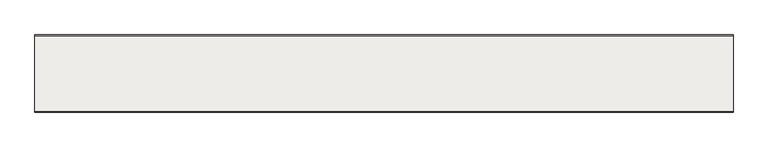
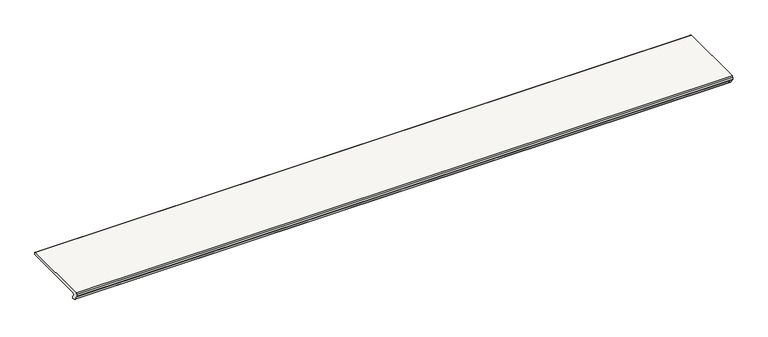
"""IFC4 building model written with IfcOpenShell, lengths in millimetres: slab geometry, ROSA GRES_J62 : Pieza J62_Tresor_Java_Anti-Slip."""

from ifc_helpers import new_model, si_unit, frame, origin, place, context, project, spatial, polyline, circle_curve, source, transform, mapped, element, save
from ifc_brep_helpers import plane_surface, cylinder_surface, revolved_surface, advanced_brep


def slab_f0ecebe4(model_context):
    return source(origin(), model_context, "Body", "AdvancedBrep", [
        advanced_brep(
        [(2870.0, 317.0, 2.5), (2870.0, 317.0, 10.0774941), (2870.0, 314.2818333, 12.7946269), (2870.0, 3.9876034, 12.7946269), (2870.0, 0.0, 8.2984975), (2870.0, 0.0, -0.2793766), (2870.0, 0.7963935, -2.84429), (2870.0, 14.760096, -23.1626329), (2870.0, 17.666394, -25.1262743), (2870.0, 18.5721049, -25.1262743), (2870.0, 19.473321, -26.1221068), (2870.0, 20.3835268, -27.1188383), (2870.0, 26.7240304, -27.1188383), (2870.0, 29.4411632, -24.4017055), (2870.0, 29.4411632, -18.2354274), (2870.0, 24.5931401, -10.7276172), (2870.0, 29.6363327, 0.0), (2870.0, 314.5, 0.0), (0.0, 317.0, 2.5), (0.0, 314.5, 0.0), (0.0, 29.6363327, 0.0), (0.0, 24.5931401, -10.7276172), (0.0, 29.4411632, -18.2354274), (0.0, 29.4411632, -24.4017055), (0.0, 26.7240304, -27.1188383), (0.0, 20.3835268, -27.1188383), (0.0, 19.4823107, -26.1230058), (0.0, 18.5721049, -25.1262743), (0.0, 17.666394, -25.1262743), (0.0, 14.760096, -23.1626329), (0.0, 0.7963935, -2.84429), (0.0, 0.0, -0.2793766), (0.0, 0.0, 8.2984975), (0.0, 3.9876034, 12.7946269), (0.0, 314.2818333, 12.7946269), (0.0, 316.9989661, 10.0774941)],
        [
            (0, 1),
            (1, 2, circle_curve(frame((2870.0, 314.2818333, 10.0774941), z_axis=(1.0, 0.0, 0.0), x_axis=(0.0, 0.0, 1.0)), 2.7171328)),
            (2, 3),
            (3, 4, circle_curve(frame((2870.0, 4.5285547, 8.2984975), z_axis=(1.0, 0.0, 0.0), x_axis=(0.0, -0.9928398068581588, -0.11945341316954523)), 4.5285547)),
            (4, 5),
            (5, 6, circle_curve(frame((2870.0, 4.5285547, -0.2793766), z_axis=(1.0, 0.0, 0.0), x_axis=(0.0, 0.0, -1.0)), 4.5285547)),
            (6, 7),
            (7, 8, circle_curve(frame((2870.0, 18.9818017, -20.0468365), z_axis=(1.0, 0.0, 0.0), x_axis=(0.0, 0.5938246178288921, -0.804594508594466)), 5.2469978)),
            (8, 9),
            (9, 10, circle_curve(frame((2870.0, 18.5721049, -26.0319852), z_axis=(-1.0, 0.0, 0.0), x_axis=(0.0, 1.0, 0.0)), 0.9057109)),
            (10, 11, circle_curve(frame((2870.0, 20.3835268, -26.2131274), z_axis=(1.0, 0.0, 0.0), x_axis=(0.0, -0.0995037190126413, -0.9950371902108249)), 0.9057109)),
            (11, 12),
            (12, 13, circle_curve(frame((2870.0, 26.7240304, -24.4017055), z_axis=(1.0, 0.0, 0.0), x_axis=(0.0, 1.0, 0.0)), 2.7171328)),
            (13, 14),
            (14, 15),
            (15, 16, circle_curve(frame((2870.0, 30.1604402, -6.7956336), z_axis=(-1.0, 0.0, 0.0), x_axis=(0.0, -0.5768912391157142, 0.8168209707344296)), 6.8158144)),
            (16, 17),
            (17, 0, circle_curve(frame((2870.0, 314.5, 2.5), z_axis=(1.0, 0.0, 0.0), x_axis=(0.0, 1.0, 0.0)), 2.5)),
            (18, 19, circle_curve(frame((0.0, 314.5, 2.5), z_axis=(-1.0, 0.0, 0.0), x_axis=(0.0, 1.0, 0.0)), 2.5)),
            (19, 20),
            (20, 21, circle_curve(frame((0.0, 30.1604402, -6.7956336), z_axis=(1.0, 0.0, 0.0), x_axis=(0.0, -0.5768912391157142, 0.8168209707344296)), 6.8158144)),
            (21, 22),
            (22, 23),
            (23, 24, circle_curve(frame((0.0, 26.7240304, -24.4017055), z_axis=(-1.0, 0.0, 0.0), x_axis=(0.0, 1.0, 0.0)), 2.7171328)),
            (24, 25),
            (25, 26, circle_curve(frame((0.0, 20.3835268, -26.2131274), z_axis=(-1.0, 0.0, 0.0), x_axis=(0.0, -0.0995037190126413, -0.9950371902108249)), 0.9057109)),
            (26, 27, circle_curve(frame((0.0, 18.5721049, -26.0319852), z_axis=(1.0, 0.0, 0.0), x_axis=(0.0, 1.0, 0.0)), 0.9057109)),
            (27, 28),
            (28, 29, circle_curve(frame((0.0, 18.9818017, -20.0468365), z_axis=(-1.0, 0.0, 0.0), x_axis=(0.0, 0.5938246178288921, -0.804594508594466)), 5.2469978)),
            (29, 30),
            (30, 31, circle_curve(frame((0.0, 4.5285547, -0.2793766), z_axis=(-1.0, 0.0, 0.0), x_axis=(0.0, 0.0, -1.0)), 4.5285547)),
            (31, 32),
            (32, 33, circle_curve(frame((0.0, 4.5285547, 8.2984975), z_axis=(-1.0, 0.0, 0.0), x_axis=(0.0, -0.9928398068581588, -0.11945341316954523)), 4.5285547)),
            (33, 34),
            (34, 35, circle_curve(frame((0.0, 314.2818333, 10.0774941), z_axis=(-1.0, 0.0, 0.0), x_axis=(0.0, 0.0, 1.0)), 2.7171328)),
            (35, 18),
            (16, 20),
            (19, 17),
            (18, 0),
            (35, 1),
            (34, 2),
            (33, 3),
            (32, 4),
            (31, 5),
            (30, 6),
            (29, 7),
            (28, 8),
            (27, 9),
            (26, 10),
            (25, 11),
            (24, 12),
            (23, 13),
            (22, 14),
            (21, 15),
        ],
        [
            plane_surface(frame((2870.0, 317.0, 10.0774941), z_axis=(1.0, 0.0, 0.0), x_axis=(0.0, 0.0, 1.0))),
            plane_surface(frame((0.0, 317.0, 10.0774941), z_axis=(-1.0, 0.0, 0.0), x_axis=(0.0, 0.0, -1.0))),
            plane_surface(frame((2870.0, 172.0681664, 0.0), z_axis=(0.0, 0.0, -1.0), x_axis=(0.0, 1.0, 0.0))),
            cylinder_surface(frame((2870.0, 314.5, 2.5), z_axis=(-1.0, 0.0, 0.0), x_axis=(0.0, 1.0, 0.0)), 2.5),
            plane_surface(frame((2870.0, 317.0, 6.288747), z_axis=(0.0, 1.0, 0.0), x_axis=(0.0, 0.0, 1.0))),
            cylinder_surface(frame((2870.0, 314.2818333, 10.0774941), z_axis=(-1.0, 0.0, 0.0), x_axis=(0.0, 0.0, 1.0)), 2.7171328),
            plane_surface(frame((2870.0, 159.1347183, 12.7946269), z_axis=(0.0, 0.0, 1.0), x_axis=(0.0, -1.0, 0.0))),
            cylinder_surface(frame((2870.0, 4.5285547, 8.2984975), z_axis=(-1.0, 0.0, 0.0), x_axis=(0.0, -0.9928398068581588, -0.11945341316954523)), 4.5285547),
            plane_surface(frame((2870.0, 0.0, 4.0095604), z_axis=(0.0, -1.0, 0.0), x_axis=(0.0, 0.0, -1.0))),
            cylinder_surface(frame((2870.0, 4.5285547, -0.2793766), z_axis=(-1.0, 0.0, 0.0), x_axis=(0.0, 0.0, -1.0)), 4.5285547),
            plane_surface(frame((2870.0, 7.7782448, -13.0034614), z_axis=(0.0, -0.8241395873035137, -0.5663867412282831), x_axis=(0.0, 0.5663867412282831, -0.8241395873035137))),
            cylinder_surface(frame((2870.0, 18.9818017, -20.0468365), z_axis=(-1.0, 0.0, 0.0), x_axis=(0.0, 0.5938246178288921, -0.804594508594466)), 5.2469978),
            plane_surface(frame((2870.0, 18.1192494, -25.1262743), z_axis=(0.0, -3.481715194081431e-11, -1.0), x_axis=(0.0, 1.0, -3.481715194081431e-11))),
            revolved_surface(polyline([(0.0, 19.4778158, -26.0319852), (2870.0, 19.4778158, -26.0319852)]), (2870.0, 18.5721049, -26.0319852), (-1.0, 0.0, 0.0)),
            cylinder_surface(frame((2870.0, 20.3835268, -26.2131274), z_axis=(-1.0, 0.0, 0.0), x_axis=(0.0, -0.0995037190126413, -0.9950371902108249)), 0.9057109),
            plane_surface(frame((2870.0, 23.5537786, -27.1188383), z_axis=(0.0, -5.4811523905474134e-12, -1.0), x_axis=(0.0, 1.0, -5.4811523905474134e-12))),
            cylinder_surface(frame((2870.0, 26.7240304, -24.4017055), z_axis=(-1.0, 0.0, 0.0), x_axis=(0.0, 1.0, 0.0)), 2.7171328),
            plane_surface(frame((2870.0, 29.4411632, -21.3185665), z_axis=(0.0, 1.0, 0.0), x_axis=(0.0, 0.0, 1.0))),
            plane_surface(frame((2870.0, 27.0171517, -14.4815223), z_axis=(0.0, 0.8400786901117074, 0.542464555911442), x_axis=(0.0, -0.542464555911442, 0.8400786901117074))),
            revolved_surface(polyline([(0.0, 26.228456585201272, -1.2283334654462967), (2870.0, 26.228456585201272, -1.2283334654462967)]), (2870.0, 30.1604402, -6.7956336), (-1.0, 0.0, 0.0)),
        ],
        [
            (0, [[1, 2, 3, 4, 5, 6, 7, 8, 9, 10, 11, 12, 13, 14, 15, 16, 17, 18]]),
            (1, [[19, 20, 21, 22, 23, 24, 25, 26, 27, 28, 29, 30, 31, 32, 33, 34, 35, 36]]),
            (2, [[-17, 37, -20, 38]]),
            (3, [[-18, -38, -19, 39]]),
            (4, [[-1, -39, -36, 40]]),
            (5, [[-2, -40, -35, 41]]),
            (6, [[-3, -41, -34, 42]]),
            (7, [[-4, -42, -33, 43]]),
            (8, [[-5, -43, -32, 44]]),
            (9, [[-6, -44, -31, 45]]),
            (10, [[-7, -45, -30, 46]]),
            (11, [[-8, -46, -29, 47]]),
            (12, [[-9, -47, -28, 48]]),
            (13, [[-10, -48, -27, 49]]),
            (14, [[-11, -49, -26, 50]]),
            (15, [[-12, -50, -25, 51]]),
            (16, [[-13, -51, -24, 52]]),
            (17, [[-14, -52, -23, 53]]),
            (18, [[-15, -53, -22, 54]]),
            (19, [[-16, -54, -21, -37]]),
        ],
    ),
    ])


if __name__ == "__main__":
    model = new_model("IFC4")
    model_context = context("Model", 3, world=origin())
    ifc_project = project(units=[si_unit("LENGTHUNIT", "METRE", prefix="MILLI")], contexts=[model_context])
    site = spatial("IfcSite", under=ifc_project)
    building = spatial("IfcBuilding", under=site)
    placement = place(None, origin())
    slab_shape = slab_f0ecebe4(model_context)
    element("IfcSlab", 1, ObjectType="ROSA GRES_J62 : Pieza J62_Tresor_Java_Anti-Slip", at=placement, inside=building, context=model_context, shape_type="MappedRepresentation", body=[
        mapped(slab_shape, transform((0.0, 0.0, 0.0), x_axis=(1.0, 0.0, 0.0), y_axis=(0.0, 1.0, 0.0), z_axis=(0.0, 0.0, 1.0))),
    ])
    save(model, "model.ifc")
